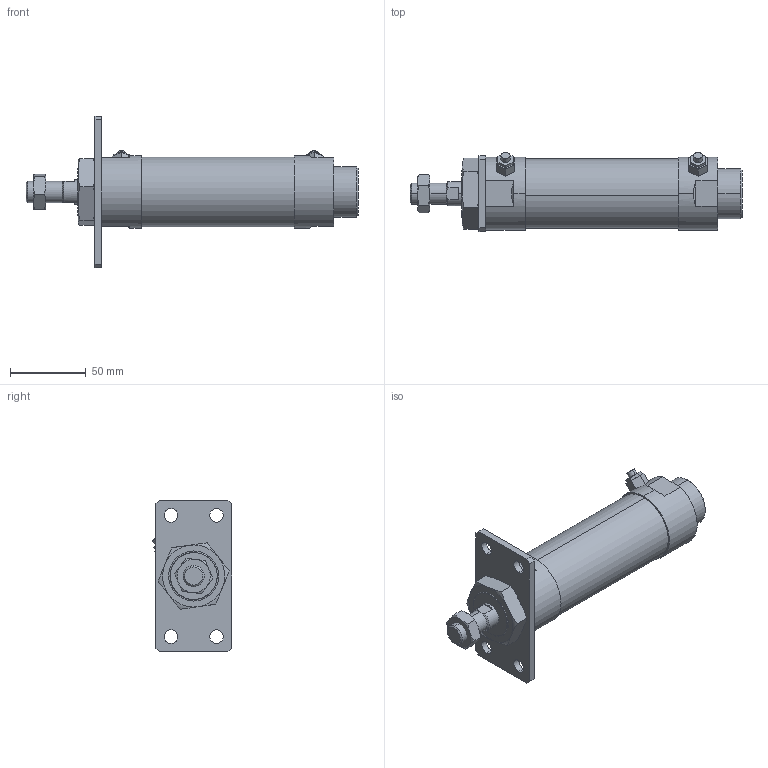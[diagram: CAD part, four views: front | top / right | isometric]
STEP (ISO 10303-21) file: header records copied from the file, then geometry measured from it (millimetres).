
FILE_DESCRIPTION (( 'STEP AP203' ), '1' );
FILE_NAME ('JG2-40-50-A.STEP', '2016-04-19T00:51:54', ( '' ), ( '' ), 'SwSTEP 2.0', 'SolidWorks 2014', '' );
FILE_SCHEMA (( 'CONFIG_CONTROL_DESIGN' ));
Length unit declared in the file: millimetre
Products named in the file (7): JG2-40B; M14x1.5-8mm; J#2-40-A; M33x2-11mm; JG2-40-50-A; JG2-40A; 40-50
Assembly tree (6 placements, depth 2):
  JG2-40-50-A
    JG2-40B
    40-50
    JG2-40A
    M14x1.5-8mm
    M33x2-11mm
    J#2-40-A
Bounding box: 219 x 52.22 x 100 mm (x, y, z)
Volume: 320457.4 mm3; surface area: 55166.2 mm2
Topology: 6 solids, 6 shells, 150 faces, 348 edges, 217 vertices
Faces by surface type: plane 75, cylinder 36, torus 24, cone 15
Entity records: 5432 total; most frequent: CARTESIAN_POINT 1335, DIRECTION 701, ORIENTED_EDGE 688, EDGE_CURVE 344, AXIS2_PLACEMENT_3D 269, VERTEX_POINT 217, EDGE_LOOP 175, VECTOR 163
